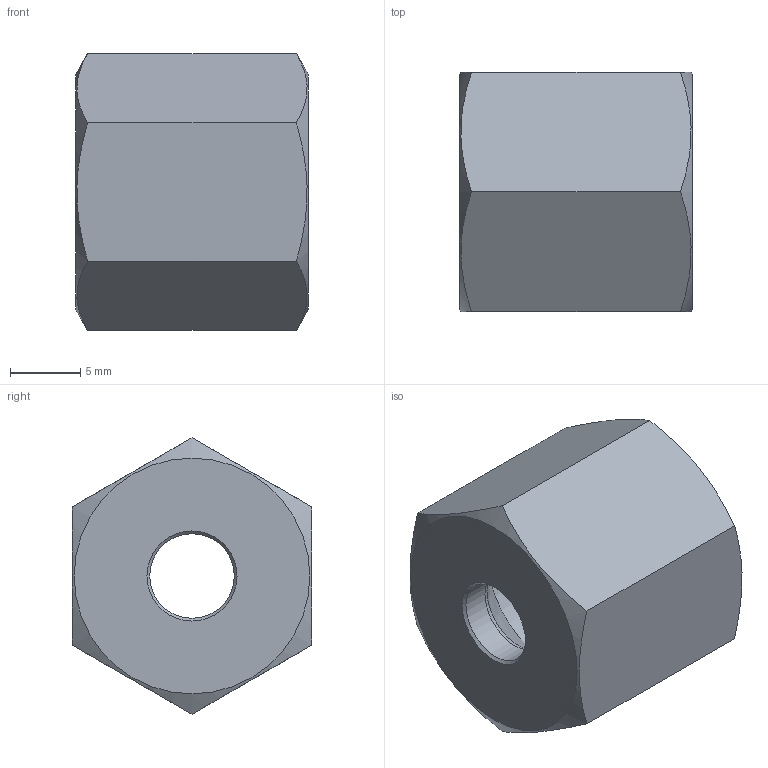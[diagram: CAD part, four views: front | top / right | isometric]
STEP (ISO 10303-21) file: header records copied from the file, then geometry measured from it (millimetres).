
FILE_DESCRIPTION( ( 'Unknown' ), '1' );
FILE_NAME( 'C:/Users/p.nanko/Desktop/3D SR/M06S.stp', 'Unknown', ( 'Peter Nanko' ), ( 'Armaturen Arndt' ), 'PSStep 14.0', 'Solid Edge ST4', ' ' );
FILE_SCHEMA( ( 'AUTOMOTIVE_DESIGN { 1 0 10303 214 1 1 1 1 }' ) );
Length unit declared in the file: millimetre
Products named in the file (1): 1
Bounding box: 16.5 x 17 x 19.63 mm (x, y, z)
Volume: 2500.6 mm3; surface area: 1880.9 mm2
Topology: 1 solids, 1 shells, 17 faces, 39 edges, 24 vertices
Faces by surface type: plane 8, cone 6, cylinder 3
Full cylindrical faces by diameter (mm): 6 x1, 12.376 x2
Entity records: 668 total; most frequent: CARTESIAN_POINT 192, DIRECTION 62, ORIENTED_EDGE 56, AXIS2_PLACEMENT_3D 28, EDGE_LOOP 28, EDGE_CURVE 28, VERTEX_POINT 22, FACE_OUTER_BOUND 20
